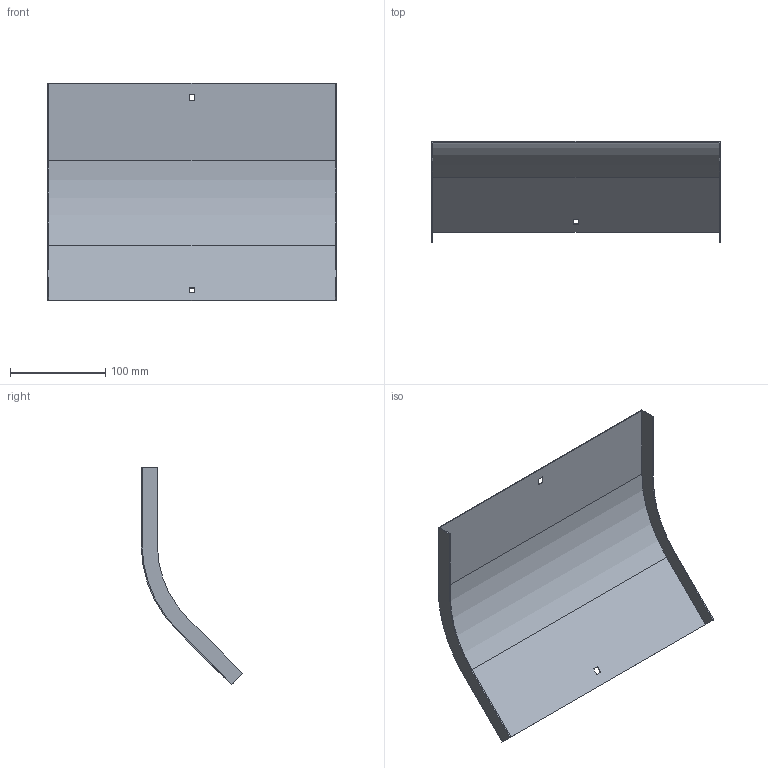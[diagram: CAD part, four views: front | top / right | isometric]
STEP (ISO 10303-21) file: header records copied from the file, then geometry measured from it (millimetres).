
FILE_DESCRIPTION (( 'STEP AP214' ), '1' );
FILE_NAME ('OD4_301.step', '2025-07-16T09:11:49', ( '' ), ( '' ), 'SwSTEP 2.0', 'SolidWorks 2023', '' );
FILE_SCHEMA (( 'AUTOMOTIVE_DESIGN' ));
Length unit declared in the file: millimetre
Products named in the file (1): OD4_301
Bounding box: 302 x 106.5 x 228.09 mm (x, y, z)
Volume: 87013.1 mm3; surface area: 175244 mm2
Topology: 1 solids, 1 shells, 26 faces, 72 edges, 48 vertices
Faces by surface type: plane 22, cylinder 4
Entity records: 855 total; most frequent: CARTESIAN_POINT 147, ORIENTED_EDGE 144, DIRECTION 134, EDGE_CURVE 72, VECTOR 64, LINE 64, VERTEX_POINT 48, AXIS2_PLACEMENT_3D 35
